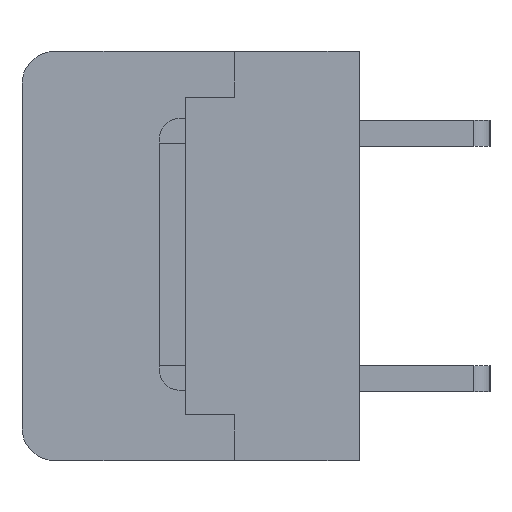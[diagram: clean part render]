
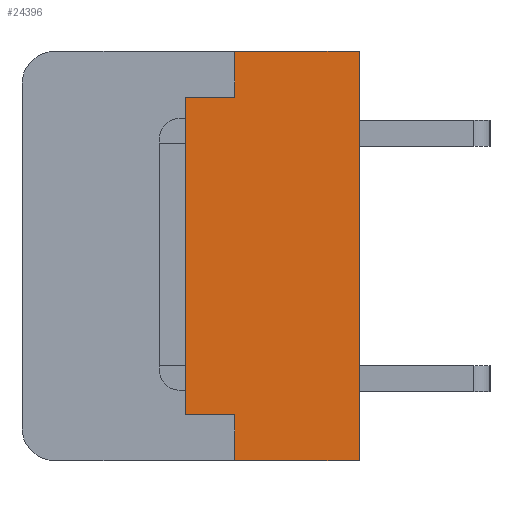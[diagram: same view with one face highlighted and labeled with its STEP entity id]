
A CAD part, left-side view. The second image highlights one B-rep face of the part: STEP entity #24396.
In plain terms, the highlighted planar face has unit normal (-1, 0, 0).
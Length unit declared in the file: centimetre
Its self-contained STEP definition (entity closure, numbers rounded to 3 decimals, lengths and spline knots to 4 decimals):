
#1445=VERTEX_POINT('',#32209);
#1448=VERTEX_POINT('',#32214);
#1874=VERTEX_POINT('',#33941);
#1875=VERTEX_POINT('',#33942);
#1876=VERTEX_POINT('',#33944);
#1877=VERTEX_POINT('',#33946);
#1878=VERTEX_POINT('',#33948);
#1879=VERTEX_POINT('',#33950);
#4011=VECTOR('',#26775,1.);
#4512=VECTOR('',#27471,1.);
#4513=VECTOR('',#27472,1.);
#4514=VECTOR('',#27473,1.);
#4515=VECTOR('',#27474,1.);
#4516=VECTOR('',#27475,1.);
#4517=VECTOR('',#27476,1.);
#4518=VECTOR('',#27477,1.);
#6787=LINE('',#32215,#4011);
#7288=LINE('',#33940,#4512);
#7289=LINE('',#33943,#4513);
#7290=LINE('',#33945,#4514);
#7291=LINE('',#33947,#4515);
#7292=LINE('',#33949,#4516);
#7293=LINE('',#33951,#4517);
#7294=LINE('',#33952,#4518);
#9574=EDGE_CURVE('',#1448,#1445,#6787,.T.);
#10194=EDGE_CURVE('',#1874,#1875,#7288,.T.);
#10195=EDGE_CURVE('',#1876,#1874,#7289,.T.);
#10196=EDGE_CURVE('',#1877,#1876,#7290,.T.);
#10197=EDGE_CURVE('',#1878,#1877,#7291,.T.);
#10198=EDGE_CURVE('',#1879,#1878,#7292,.T.);
#10199=EDGE_CURVE('',#1445,#1879,#7293,.T.);
#10200=EDGE_CURVE('',#1875,#1448,#7294,.T.);
#14674=ORIENTED_EDGE('',*,*,#10194,.F.);
#14675=ORIENTED_EDGE('',*,*,#10195,.F.);
#14676=ORIENTED_EDGE('',*,*,#10196,.F.);
#14677=ORIENTED_EDGE('',*,*,#10197,.F.);
#14678=ORIENTED_EDGE('',*,*,#10198,.F.);
#14679=ORIENTED_EDGE('',*,*,#10199,.F.);
#14680=ORIENTED_EDGE('',*,*,#9574,.F.);
#14681=ORIENTED_EDGE('',*,*,#10200,.F.);
#21298=EDGE_LOOP('',(#14674,#14675,#14676,#14677,#14678,#14679,#14680,#14681));
#22872=FACE_BOUND('',#21298,.T.);
#24396=ADVANCED_FACE('',(#22872),#25771,.F.);
#25771=PLANE('',#41328);
#26775=DIRECTION('',(0.,0.,-1.));
#27470=DIRECTION('',(1.,0.,0.));
#27471=DIRECTION('',(0.,0.,1.));
#27472=DIRECTION('',(0.,-1.,0.));
#27473=DIRECTION('',(0.,0.,1.));
#27474=DIRECTION('',(0.,1.,0.));
#27475=DIRECTION('',(0.,0.,1.));
#27476=DIRECTION('',(0.,1.,0.));
#27477=DIRECTION('',(0.,-1.,0.));
#32209=CARTESIAN_POINT('',(-1.382,0.,-0.625));
#32214=CARTESIAN_POINT('',(-1.382,0.,0.625));
#32215=CARTESIAN_POINT('',(-1.382,0.,0.625));
#33939=CARTESIAN_POINT('',(-1.382,0.2532,0.));
#33940=CARTESIAN_POINT('',(-1.382,0.38,0.485));
#33941=CARTESIAN_POINT('',(-1.382,0.38,0.485));
#33942=CARTESIAN_POINT('',(-1.382,0.38,0.625));
#33943=CARTESIAN_POINT('',(-1.382,0.53,0.485));
#33944=CARTESIAN_POINT('',(-1.382,0.53,0.485));
#33945=CARTESIAN_POINT('',(-1.382,0.53,-0.485));
#33946=CARTESIAN_POINT('',(-1.382,0.53,-0.485));
#33947=CARTESIAN_POINT('',(-1.382,0.38,-0.485));
#33948=CARTESIAN_POINT('',(-1.382,0.38,-0.485));
#33949=CARTESIAN_POINT('',(-1.382,0.38,-0.625));
#33950=CARTESIAN_POINT('',(-1.382,0.38,-0.625));
#33951=CARTESIAN_POINT('',(-1.382,0.,-0.625));
#33952=CARTESIAN_POINT('',(-1.382,0.38,0.625));
#41328=AXIS2_PLACEMENT_3D('',#33939,#27470,$);
